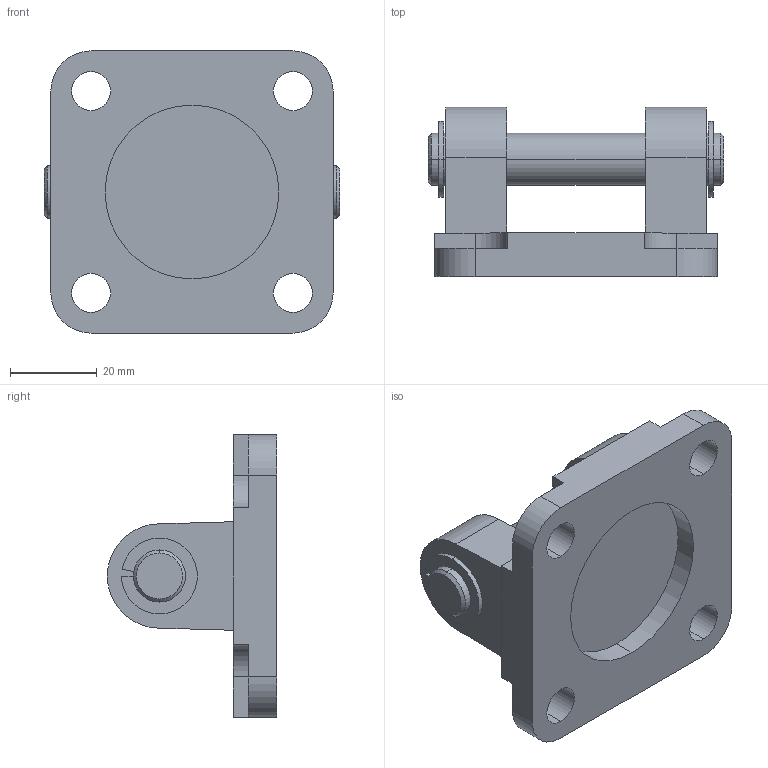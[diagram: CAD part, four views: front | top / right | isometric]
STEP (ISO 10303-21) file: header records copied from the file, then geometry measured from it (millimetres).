
FILE_DESCRIPTION (( 'STEP AP214' ), '1' );
FILE_NAME ('SFSICR-050.STEP', '2013-09-11T11:39:57', ( '' ), ( '' ), 'SwSTEP 2.0', 'SolidWorks 2009', '' );
FILE_SCHEMA (( 'AUTOMOTIVE_DESIGN' ));
Length unit declared in the file: millimetre
Products named in the file (3): SFSICR-050; SFSI-Gestell_SFSICR-050; Bolzen_Bolzen-050
Assembly tree (2 placements, depth 2):
  SFSICR-050
    Bolzen_Bolzen-050
    SFSI-Gestell_SFSICR-050
Bounding box: 68 x 39 x 65 mm (x, y, z)
Volume: 52852.5 mm3; surface area: 19395.8 mm2
Topology: 2 solids, 2 shells, 83 faces, 216 edges, 140 vertices
Faces by surface type: plane 41, cylinder 38, cone 4
Entity records: 2850 total; most frequent: DIRECTION 480, CARTESIAN_POINT 444, ORIENTED_EDGE 432, EDGE_CURVE 216, AXIS2_PLACEMENT_3D 176, VERTEX_POINT 140, VECTOR 128, LINE 128
